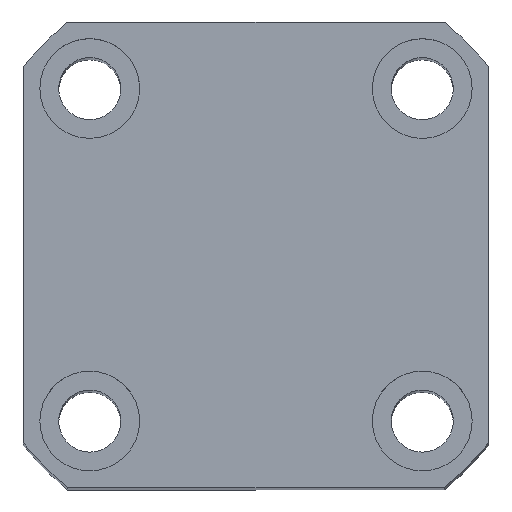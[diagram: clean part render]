
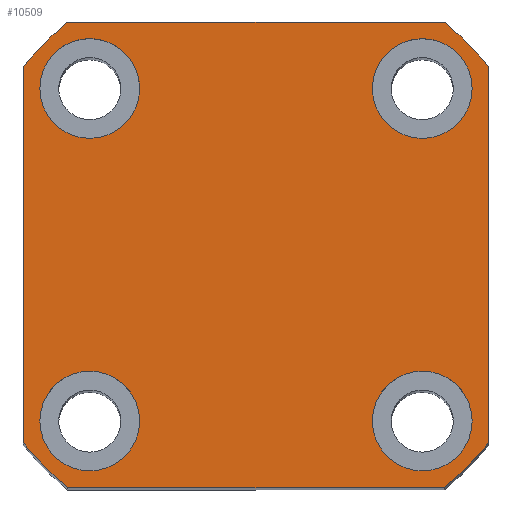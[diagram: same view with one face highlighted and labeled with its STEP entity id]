
A CAD part, top view. The second image highlights one B-rep face of the part: STEP entity #10509.
In plain terms, the highlighted planar face has unit normal (0, 0, 1).
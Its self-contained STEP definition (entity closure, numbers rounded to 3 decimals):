
#34 = EDGE_CURVE ( 'NONE', #7949, #6201, #4082, .T. ) ;
#208 = ORIENTED_EDGE ( 'NONE', *, *, #5760, .F. ) ;
#247 = LINE ( 'NONE', #394, #4610 ) ;
#394 = CARTESIAN_POINT ( 'NONE',  ( 21., 21., 128. ) ) ;
#477 = DIRECTION ( 'NONE',  ( 1., 0., 0. ) ) ;
#594 = EDGE_LOOP ( 'NONE', ( #2926, #985 ) ) ;
#670 = DIRECTION ( 'NONE',  ( 1., 0., 0. ) ) ;
#689 = DIRECTION ( 'NONE',  ( 1., 0., 0. ) ) ;
#777 = DIRECTION ( 'NONE',  ( 0., 0., 1. ) ) ;
#939 = CARTESIAN_POINT ( 'NONE',  ( -19.5, -14.998, 128. ) ) ;
#976 = VERTEX_POINT ( 'NONE', #939 ) ;
#985 = ORIENTED_EDGE ( 'NONE', *, *, #9830, .F. ) ;
#1025 = CIRCLE ( 'NONE', #8810, 4.5 ) ;
#1030 = CARTESIAN_POINT ( 'NONE',  ( -10.5, -14.998, 128. ) ) ;
#1051 = FACE_BOUND ( 'NONE', #594, .T. ) ;
#1146 = DIRECTION ( 'NONE',  ( 0., 0., 1. ) ) ;
#1380 = CARTESIAN_POINT ( 'NONE',  ( 19.5, 15., 128. ) ) ;
#1401 = CARTESIAN_POINT ( 'NONE',  ( 16.971, -21., 128. ) ) ;
#1562 = CIRCLE ( 'NONE', #8311, 4.5 ) ;
#1607 = DIRECTION ( 'NONE',  ( -1., 0., 0. ) ) ;
#1710 = CIRCLE ( 'NONE', #6374, 27. ) ;
#1855 = LINE ( 'NONE', #2295, #10298 ) ;
#1856 = DIRECTION ( 'NONE',  ( 1., 0., 0. ) ) ;
#2075 = EDGE_CURVE ( 'NONE', #9972, #3865, #9428, .T. ) ;
#2141 = VERTEX_POINT ( 'NONE', #7132 ) ;
#2293 = DIRECTION ( 'NONE',  ( 0., 0., 1. ) ) ;
#2295 = CARTESIAN_POINT ( 'NONE',  ( -21., 21., 128. ) ) ;
#2397 = ORIENTED_EDGE ( 'NONE', *, *, #2075, .F. ) ;
#2438 = CIRCLE ( 'NONE', #10299, 4.5 ) ;
#2534 = DIRECTION ( 'NONE',  ( 1., 0., 0. ) ) ;
#2573 = CARTESIAN_POINT ( 'NONE',  ( 15., -14.998, 128. ) ) ;
#2579 = VECTOR ( 'NONE', #1607, 1000. ) ;
#2616 = CIRCLE ( 'NONE', #3042, 27. ) ;
#2735 = CARTESIAN_POINT ( 'NONE',  ( 19.5, -14.998, 128. ) ) ;
#2926 = ORIENTED_EDGE ( 'NONE', *, *, #9888, .F. ) ;
#2972 = AXIS2_PLACEMENT_3D ( 'NONE', #3645, #9380, #4462 ) ;
#3015 = EDGE_CURVE ( 'NONE', #6201, #7793, #1855, .T. ) ;
#3042 = AXIS2_PLACEMENT_3D ( 'NONE', #7194, #2293, #8013 ) ;
#3080 = CARTESIAN_POINT ( 'NONE',  ( 15., 15., 128. ) ) ;
#3206 = FACE_BOUND ( 'NONE', #9711, .T. ) ;
#3217 = DIRECTION ( 'NONE',  ( 1., 0., 0. ) ) ;
#3279 = ORIENTED_EDGE ( 'NONE', *, *, #3478, .F. ) ;
#3288 = AXIS2_PLACEMENT_3D ( 'NONE', #10279, #5392, #477 ) ;
#3478 = EDGE_CURVE ( 'NONE', #10221, #7176, #5560, .T. ) ;
#3484 = FACE_BOUND ( 'NONE', #8801, .T. ) ;
#3493 = CIRCLE ( 'NONE', #9419, 4.5 ) ;
#3509 = AXIS2_PLACEMENT_3D ( 'NONE', #8867, #5602, #689 ) ;
#3645 = CARTESIAN_POINT ( 'NONE',  ( -15., -14.998, 128. ) ) ;
#3689 = ORIENTED_EDGE ( 'NONE', *, *, #4792, .T. ) ;
#3709 = ORIENTED_EDGE ( 'NONE', *, *, #10615, .T. ) ;
#3778 = CARTESIAN_POINT ( 'NONE',  ( 15., -14.998, 128. ) ) ;
#3805 = ORIENTED_EDGE ( 'NONE', *, *, #5675, .F. ) ;
#3865 = VERTEX_POINT ( 'NONE', #2735 ) ;
#3891 = DIRECTION ( 'NONE',  ( 1., 0., 0. ) ) ;
#3926 = VERTEX_POINT ( 'NONE', #5283 ) ;
#3955 = CIRCLE ( 'NONE', #3288, 4.5 ) ;
#4042 = ORIENTED_EDGE ( 'NONE', *, *, #5225, .F. ) ;
#4082 = CIRCLE ( 'NONE', #10455, 27. ) ;
#4146 = VERTEX_POINT ( 'NONE', #7645 ) ;
#4177 = ORIENTED_EDGE ( 'NONE', *, *, #7188, .T. ) ;
#4233 = EDGE_LOOP ( 'NONE', ( #7529, #5606, #3689, #6135, #10453, #4177, #3709, #5891 ) ) ;
#4462 = DIRECTION ( 'NONE',  ( 1., 0., 0. ) ) ;
#4472 = VERTEX_POINT ( 'NONE', #1030 ) ;
#4502 = LINE ( 'NONE', #6505, #2579 ) ;
#4595 = DIRECTION ( 'NONE',  ( 1., 0., 0. ) ) ;
#4610 = VECTOR ( 'NONE', #6961, 1000. ) ;
#4618 = CARTESIAN_POINT ( 'NONE',  ( 0., 0., 128. ) ) ;
#4651 = CARTESIAN_POINT ( 'NONE',  ( 15., 15., 128. ) ) ;
#4792 = EDGE_CURVE ( 'NONE', #5488, #7949, #4502, .T. ) ;
#4876 = VECTOR ( 'NONE', #3217, 1000. ) ;
#5109 = EDGE_CURVE ( 'NONE', #7176, #10221, #2438, .T. ) ;
#5156 = CARTESIAN_POINT ( 'NONE',  ( -16.971, 21., 128. ) ) ;
#5225 = EDGE_CURVE ( 'NONE', #976, #4472, #8207, .T. ) ;
#5283 = CARTESIAN_POINT ( 'NONE',  ( -16.971, -21., 128. ) ) ;
#5392 = DIRECTION ( 'NONE',  ( 0., 0., 1. ) ) ;
#5460 = DIRECTION ( 'NONE',  ( 1., 0., 0. ) ) ;
#5488 = VERTEX_POINT ( 'NONE', #6320 ) ;
#5494 = DIRECTION ( 'NONE',  ( 1., 0., 0. ) ) ;
#5560 = CIRCLE ( 'NONE', #7621, 4.5 ) ;
#5572 = PLANE ( 'NONE',  #3509 ) ;
#5584 = DIRECTION ( 'NONE',  ( 0., 0., 1. ) ) ;
#5602 = DIRECTION ( 'NONE',  ( 0., 0., 1. ) ) ;
#5606 = ORIENTED_EDGE ( 'NONE', *, *, #9804, .T. ) ;
#5675 = EDGE_CURVE ( 'NONE', #4472, #976, #3955, .T. ) ;
#5694 = CARTESIAN_POINT ( 'NONE',  ( -15., 15.002, 128. ) ) ;
#5715 = VERTEX_POINT ( 'NONE', #9509 ) ;
#5760 = EDGE_CURVE ( 'NONE', #3865, #9972, #1025, .T. ) ;
#5865 = VERTEX_POINT ( 'NONE', #1380 ) ;
#5868 = DIRECTION ( 'NONE',  ( 0., 0., 1. ) ) ;
#5891 = ORIENTED_EDGE ( 'NONE', *, *, #7974, .T. ) ;
#6039 = EDGE_CURVE ( 'NONE', #5715, #2141, #247, .T. ) ;
#6060 = CARTESIAN_POINT ( 'NONE',  ( 0., 0., 128. ) ) ;
#6135 = ORIENTED_EDGE ( 'NONE', *, *, #34, .T. ) ;
#6201 = VERTEX_POINT ( 'NONE', #6209 ) ;
#6209 = CARTESIAN_POINT ( 'NONE',  ( -21., 16.971, 128. ) ) ;
#6280 = AXIS2_PLACEMENT_3D ( 'NONE', #2573, #5868, #2534 ) ;
#6320 = CARTESIAN_POINT ( 'NONE',  ( 16.971, 21., 128. ) ) ;
#6374 = AXIS2_PLACEMENT_3D ( 'NONE', #6060, #1146, #6871 ) ;
#6505 = CARTESIAN_POINT ( 'NONE',  ( -21., 21., 128. ) ) ;
#6510 = DIRECTION ( 'NONE',  ( 1., 0., 0. ) ) ;
#6871 = DIRECTION ( 'NONE',  ( 1., 0., 0. ) ) ;
#6961 = DIRECTION ( 'NONE',  ( 0., 1., 0. ) ) ;
#7058 = CARTESIAN_POINT ( 'NONE',  ( -10.5, 15.002, 128. ) ) ;
#7132 = CARTESIAN_POINT ( 'NONE',  ( 21., 16.971, 128. ) ) ;
#7176 = VERTEX_POINT ( 'NONE', #7985 ) ;
#7188 = EDGE_CURVE ( 'NONE', #7793, #3926, #2616, .T. ) ;
#7194 = CARTESIAN_POINT ( 'NONE',  ( 0., 0., 128. ) ) ;
#7209 = AXIS2_PLACEMENT_3D ( 'NONE', #4618, #10348, #5460 ) ;
#7344 = CARTESIAN_POINT ( 'NONE',  ( -21., -21., 128. ) ) ;
#7362 = CARTESIAN_POINT ( 'NONE',  ( -21., -16.971, 128. ) ) ;
#7429 = DIRECTION ( 'NONE',  ( 0., 0., 1. ) ) ;
#7462 = CARTESIAN_POINT ( 'NONE',  ( 0., 0., 128. ) ) ;
#7529 = ORIENTED_EDGE ( 'NONE', *, *, #6039, .T. ) ;
#7596 = FACE_BOUND ( 'NONE', #8314, .T. ) ;
#7621 = AXIS2_PLACEMENT_3D ( 'NONE', #5694, #777, #6510 ) ;
#7645 = CARTESIAN_POINT ( 'NONE',  ( 10.5, 15., 128. ) ) ;
#7793 = VERTEX_POINT ( 'NONE', #7362 ) ;
#7922 = ORIENTED_EDGE ( 'NONE', *, *, #5109, .F. ) ;
#7949 = VERTEX_POINT ( 'NONE', #5156 ) ;
#7974 = EDGE_CURVE ( 'NONE', #8954, #5715, #1710, .T. ) ;
#7985 = CARTESIAN_POINT ( 'NONE',  ( -19.5, 15.002, 128. ) ) ;
#8013 = DIRECTION ( 'NONE',  ( 1., 0., 0. ) ) ;
#8014 = DIRECTION ( 'NONE',  ( 0., -1., 0. ) ) ;
#8050 = CARTESIAN_POINT ( 'NONE',  ( 10.5, -14.998, 128. ) ) ;
#8207 = CIRCLE ( 'NONE', #2972, 4.5 ) ;
#8311 = AXIS2_PLACEMENT_3D ( 'NONE', #4651, #10377, #5494 ) ;
#8314 = EDGE_LOOP ( 'NONE', ( #208, #2397 ) ) ;
#8801 = EDGE_LOOP ( 'NONE', ( #3805, #4042 ) ) ;
#8810 = AXIS2_PLACEMENT_3D ( 'NONE', #3778, #9517, #4595 ) ;
#8821 = DIRECTION ( 'NONE',  ( 0., 0., 1. ) ) ;
#8867 = CARTESIAN_POINT ( 'NONE',  ( 0., 0., 128. ) ) ;
#8954 = VERTEX_POINT ( 'NONE', #1401 ) ;
#9262 = LINE ( 'NONE', #7344, #4876 ) ;
#9380 = DIRECTION ( 'NONE',  ( 0., 0., 1. ) ) ;
#9419 = AXIS2_PLACEMENT_3D ( 'NONE', #3080, #8821, #3891 ) ;
#9428 = CIRCLE ( 'NONE', #6280, 4.5 ) ;
#9509 = CARTESIAN_POINT ( 'NONE',  ( 21., -16.971, 128. ) ) ;
#9517 = DIRECTION ( 'NONE',  ( 0., 0., 1. ) ) ;
#9518 = FACE_OUTER_BOUND ( 'NONE', #4233, .T. ) ;
#9711 = EDGE_LOOP ( 'NONE', ( #3279, #7922 ) ) ;
#9804 = EDGE_CURVE ( 'NONE', #2141, #5488, #10278, .T. ) ;
#9830 = EDGE_CURVE ( 'NONE', #4146, #5865, #1562, .T. ) ;
#9888 = EDGE_CURVE ( 'NONE', #5865, #4146, #3493, .T. ) ;
#9972 = VERTEX_POINT ( 'NONE', #8050 ) ;
#10221 = VERTEX_POINT ( 'NONE', #7058 ) ;
#10279 = CARTESIAN_POINT ( 'NONE',  ( -15., -14.998, 128. ) ) ;
#10278 = CIRCLE ( 'NONE', #7209, 27. ) ;
#10298 = VECTOR ( 'NONE', #8014, 1000. ) ;
#10299 = AXIS2_PLACEMENT_3D ( 'NONE', #10458, #5584, #670 ) ;
#10348 = DIRECTION ( 'NONE',  ( 0., 0., 1. ) ) ;
#10377 = DIRECTION ( 'NONE',  ( 0., 0., 1. ) ) ;
#10453 = ORIENTED_EDGE ( 'NONE', *, *, #3015, .T. ) ;
#10455 = AXIS2_PLACEMENT_3D ( 'NONE', #7462, #7429, #1856 ) ;
#10458 = CARTESIAN_POINT ( 'NONE',  ( -15., 15.002, 128. ) ) ;
#10509 = ADVANCED_FACE ( 'NONE', ( #3206, #3484, #7596, #1051, #9518 ), #5572, .T. ) ;
#10615 = EDGE_CURVE ( 'NONE', #3926, #8954, #9262, .T. ) ;
